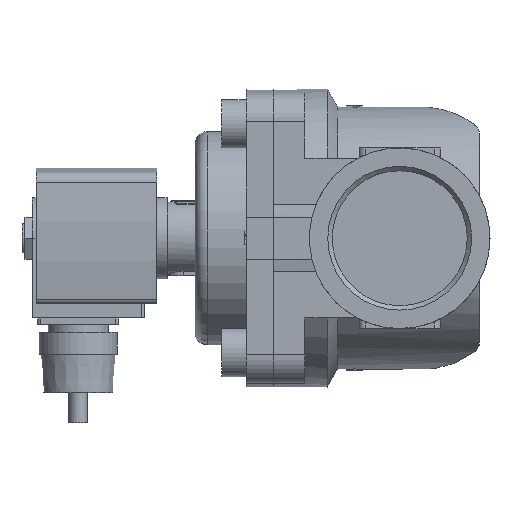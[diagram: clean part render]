
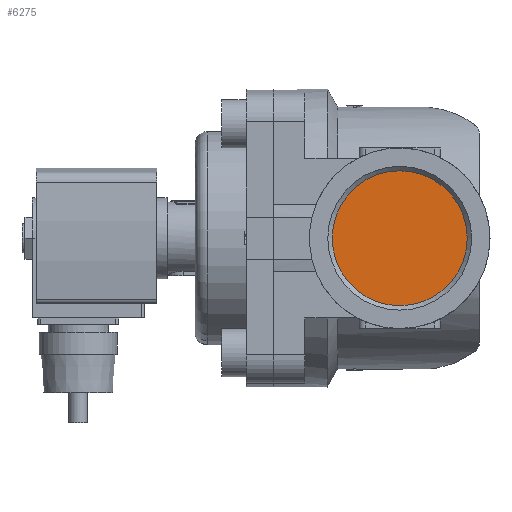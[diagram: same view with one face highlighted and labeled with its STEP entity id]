
A CAD part, left-side view. The second image highlights one B-rep face of the part: STEP entity #6275.
In plain terms, the highlighted planar face has unit normal (-1, 0, 0).
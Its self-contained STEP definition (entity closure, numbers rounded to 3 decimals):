
#2368=ORIENTED_EDGE('',*,*,#3335,.F.);
#3335=EDGE_CURVE('',#3919,#3919,#4186,.T.);
#3919=VERTEX_POINT('',#9990);
#4186=CIRCLE('',#6786,22.423);
#4499=EDGE_LOOP('',(#2368));
#4848=FACE_BOUND('',#4499,.T.);
#5087=PLANE('',#6787);
#6275=ADVANCED_FACE('',(#4848),#5087,.T.);
#6786=AXIS2_PLACEMENT_3D('',#9989,#8120,#8121);
#6787=AXIS2_PLACEMENT_3D('',#9991,#8122,#8123);
#8120=DIRECTION('',(1.,0.,0.));
#8121=DIRECTION('',(0.,0.,-1.));
#8122=DIRECTION('',(-1.,0.,0.));
#8123=DIRECTION('',(0.,0.,1.));
#9989=CARTESIAN_POINT('',(-36.,0.,0.));
#9990=CARTESIAN_POINT('',(-36.,0.,-22.423));
#9991=CARTESIAN_POINT('',(-36.,22.423,0.));
